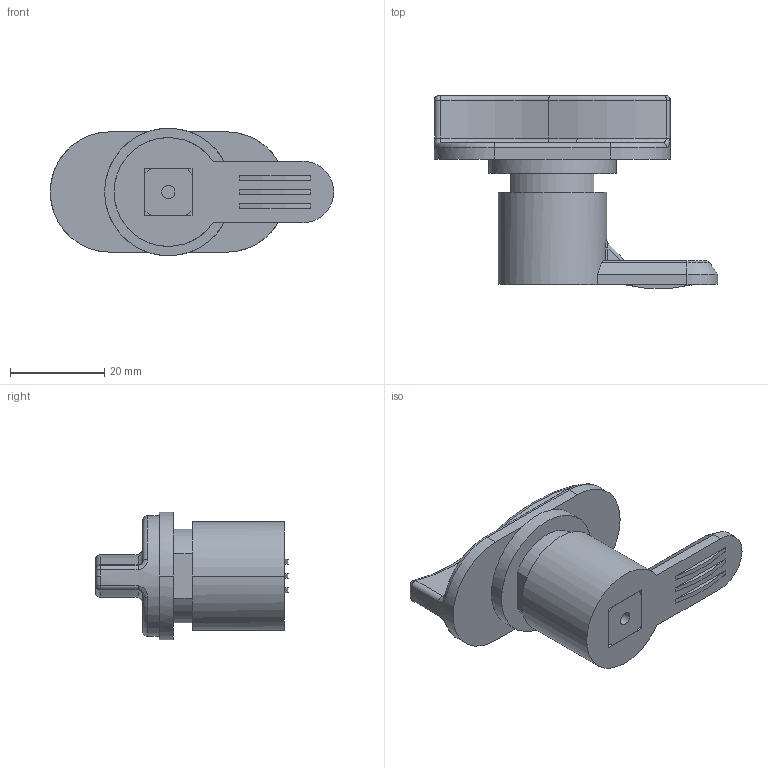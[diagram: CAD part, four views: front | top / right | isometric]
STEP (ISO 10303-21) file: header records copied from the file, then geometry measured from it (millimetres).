
FILE_DESCRIPTION (( 'STEP AP214' ), '1' );
FILE_NAME ('2.603.001.STEP', '2012-01-27T10:19:30', ( 'Techniczny' ), ( 'RST Roztocze' ), 'SwSTEP 2.0', 'SolidWorks 2010', '' );
FILE_SCHEMA (( 'AUTOMOTIVE_DESIGN' ));
Length unit declared in the file: millimetre
Products named in the file (3): pokretlo; 2.603.001; jezyk
Assembly tree (2 placements, depth 2):
  2.603.001
    jezyk
    pokretlo
Bounding box: 60 x 40.85 x 27 mm (x, y, z)
Volume: 18679.3 mm3; surface area: 8709.3 mm2
Topology: 2 solids, 2 shells, 105 faces, 247 edges, 150 vertices
Faces by surface type: plane 43, cylinder 32, torus 17, bspline 7, sphere 4, cone 2
Entity records: 3430 total; most frequent: CARTESIAN_POINT 928, DIRECTION 535, ORIENTED_EDGE 486, EDGE_CURVE 243, AXIS2_PLACEMENT_3D 211, VERTEX_POINT 148, VECTOR 113, LINE 113
